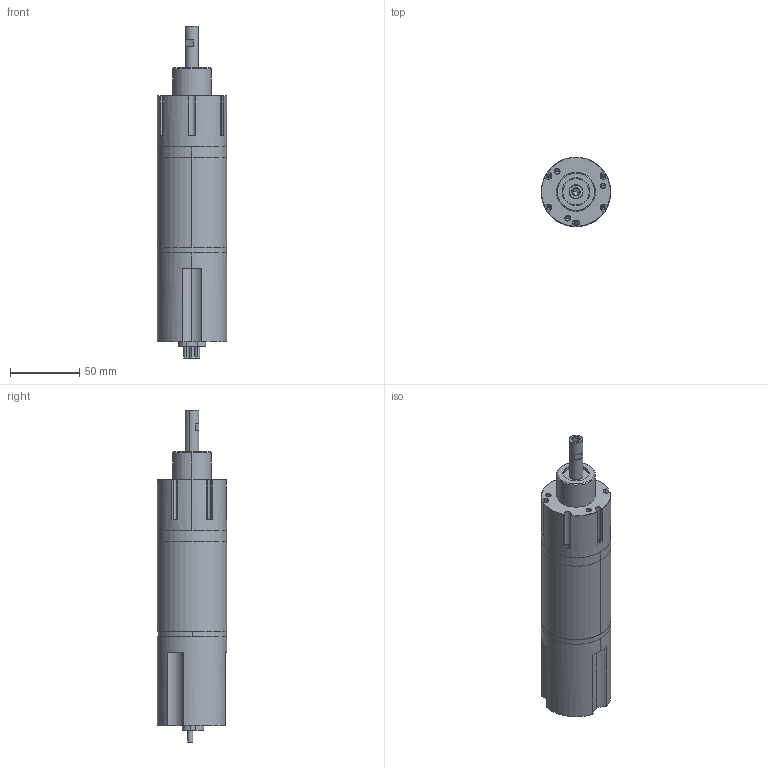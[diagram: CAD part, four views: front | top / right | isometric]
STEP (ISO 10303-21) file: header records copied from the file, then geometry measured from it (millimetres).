
FILE_DESCRIPTION (( 'STEP AP203' ), '1' );
FILE_NAME ('CBL50C-010-XX-1 OUTLINE.STEP', '2017-10-05T21:42:16', ( '' ), ( '' ), 'SwSTEP 2.0', 'SolidWorks 2016', '' );
FILE_SCHEMA (( 'CONFIG_CONTROL_DESIGN' ));
Length unit declared in the file: millimetre
Products named in the file (1): CBL50C-010-XX-1 OUTLINE
Bounding box: 50 x 50 x 239.45 mm (x, y, z)
Volume: 207365.5 mm3; surface area: 87766.2 mm2
Topology: 12 solids, 12 shells, 459 faces, 1181 edges, 725 vertices
Faces by surface type: cylinder 205, plane 138, cone 113, bspline 3
Entity records: 14930 total; most frequent: CARTESIAN_POINT 3497, DIRECTION 2518, ORIENTED_EDGE 2278, EDGE_CURVE 1139, AXIS2_PLACEMENT_3D 973, VERTEX_POINT 725, VECTOR 572, LINE 572
